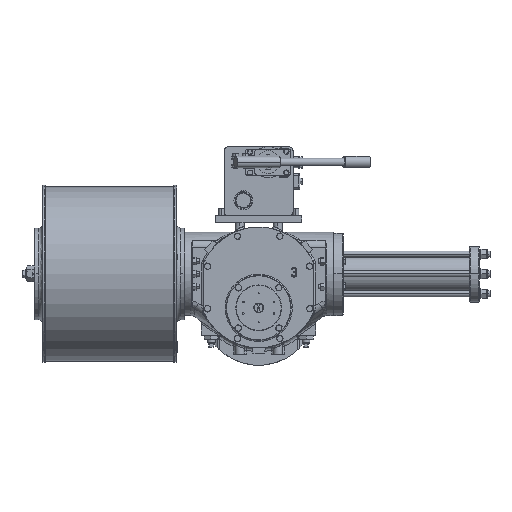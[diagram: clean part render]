
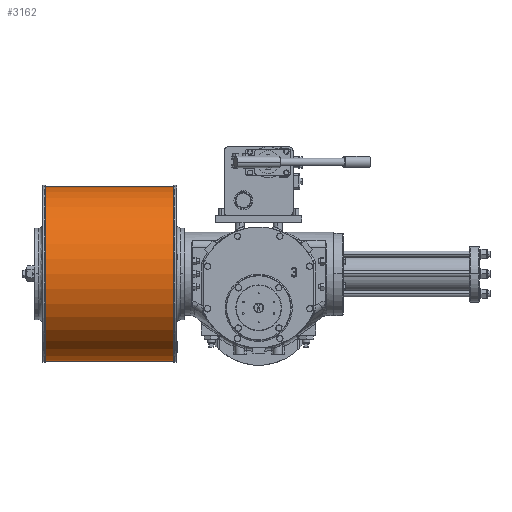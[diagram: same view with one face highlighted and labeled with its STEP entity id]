
A CAD part, top view. The second image highlights one B-rep face of the part: STEP entity #3162.
In plain terms, the highlighted cylindrical face has radius 228.6 mm (diameter 457.2 mm), a partial arc.
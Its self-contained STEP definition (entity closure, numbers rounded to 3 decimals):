
#3162 = ADVANCED_FACE ( 'NONE', ( #16047 ), #75111, .T. ) ;
#4839 = CARTESIAN_POINT ( 'NONE',  ( -559., 264.1, 74.5 ) ) ;
#5303 = CARTESIAN_POINT ( 'NONE',  ( -559., 35.5, 74.5 ) ) ;
#5781 = DIRECTION ( 'NONE',  ( 0., 1., 0. ) ) ;
#6159 = ORIENTED_EDGE ( 'NONE', *, *, #49126, .F. ) ;
#9812 = CARTESIAN_POINT ( 'NONE',  ( -559., 35.5, 74.5 ) ) ;
#9986 = VERTEX_POINT ( 'NONE', #4839 ) ;
#10925 = AXIS2_PLACEMENT_3D ( 'NONE', #5303, #48706, #5781 ) ;
#16047 = FACE_OUTER_BOUND ( 'NONE', #45732, .T. ) ;
#17648 = LINE ( 'NONE', #61440, #58459 ) ;
#22370 = VECTOR ( 'NONE', #91746, 1000. ) ;
#22817 = EDGE_CURVE ( 'NONE', #46521, #28969, #25935, .T. ) ;
#25935 = LINE ( 'NONE', #69761, #22370 ) ;
#26605 = EDGE_CURVE ( 'NONE', #28969, #41280, #61916, .T. ) ;
#26724 = AXIS2_PLACEMENT_3D ( 'NONE', #9812, #31736, #45108 ) ;
#28969 = VERTEX_POINT ( 'NONE', #52425 ) ;
#31736 = DIRECTION ( 'NONE',  ( 1., 0., 0. ) ) ;
#34075 = EDGE_CURVE ( 'NONE', #9986, #46521, #65664, .T. ) ;
#41280 = VERTEX_POINT ( 'NONE', #50489 ) ;
#44815 = DIRECTION ( 'NONE',  ( 1., 0., 0. ) ) ;
#45108 = DIRECTION ( 'NONE',  ( 0., 1., 0. ) ) ;
#45260 = CARTESIAN_POINT ( 'NONE',  ( -559., -193.1, 74.5 ) ) ;
#45732 = EDGE_LOOP ( 'NONE', ( #78876, #88750, #58223, #6159 ) ) ;
#46521 = VERTEX_POINT ( 'NONE', #45260 ) ;
#48706 = DIRECTION ( 'NONE',  ( 1., 0., 0. ) ) ;
#49126 = EDGE_CURVE ( 'NONE', #9986, #41280, #17648, .T. ) ;
#50489 = CARTESIAN_POINT ( 'NONE',  ( -222., 264.1, 74.5 ) ) ;
#52425 = CARTESIAN_POINT ( 'NONE',  ( -222., -193.1, 74.5 ) ) ;
#58223 = ORIENTED_EDGE ( 'NONE', *, *, #26605, .T. ) ;
#58459 = VECTOR ( 'NONE', #44815, 1000. ) ;
#61254 = CARTESIAN_POINT ( 'NONE',  ( -222., 35.5, 74.5 ) ) ;
#61440 = CARTESIAN_POINT ( 'NONE',  ( -559., 264.1, 74.5 ) ) ;
#61916 = CIRCLE ( 'NONE', #92450, 228.6 ) ;
#65664 = CIRCLE ( 'NONE', #10925, 228.6 ) ;
#69761 = CARTESIAN_POINT ( 'NONE',  ( -559., -193.1, 74.5 ) ) ;
#75111 = CYLINDRICAL_SURFACE ( 'NONE', #26724, 228.6 ) ;
#78876 = ORIENTED_EDGE ( 'NONE', *, *, #34075, .T. ) ;
#84154 = DIRECTION ( 'NONE',  ( 0., 1., 0. ) ) ;
#88750 = ORIENTED_EDGE ( 'NONE', *, *, #22817, .T. ) ;
#91333 = DIRECTION ( 'NONE',  ( -1., 0., 0. ) ) ;
#91746 = DIRECTION ( 'NONE',  ( 1., 0., 0. ) ) ;
#92450 = AXIS2_PLACEMENT_3D ( 'NONE', #61254, #91333, #84154 ) ;
